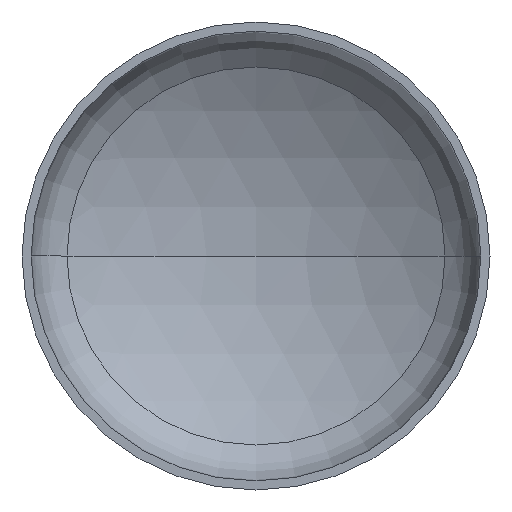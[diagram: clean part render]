
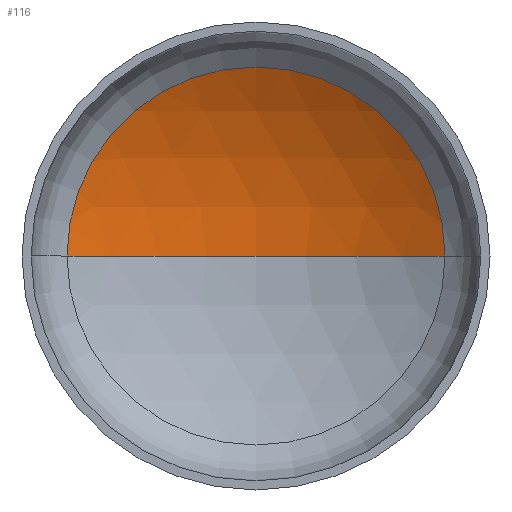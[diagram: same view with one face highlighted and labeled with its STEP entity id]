
A CAD part, front view. The second image highlights one B-rep face of the part: STEP entity #116.
In plain terms, the highlighted spherical face has radius 1760 mm.
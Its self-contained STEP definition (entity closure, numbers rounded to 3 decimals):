
#5 = CARTESIAN_POINT ( 'NONE',  ( 0., 423.475, 0. ) ) ;
#11 = EDGE_LOOP ( 'NONE', ( #101, #91, #36 ) ) ;
#36 = ORIENTED_EDGE ( 'NONE', *, *, #252, .T. ) ;
#51 = VERTEX_POINT ( 'NONE', #270 ) ;
#76 = CARTESIAN_POINT ( 'NONE',  ( 0., -1095.688, 0. ) ) ;
#83 = VERTEX_POINT ( 'NONE', #232 ) ;
#91 = ORIENTED_EDGE ( 'NONE', *, *, #253, .T. ) ;
#100 = FACE_OUTER_BOUND ( 'NONE', #11, .T. ) ;
#101 = ORIENTED_EDGE ( 'NONE', *, *, #256, .F. ) ;
#112 = VERTEX_POINT ( 'NONE', #202 ) ;
#116 = ADVANCED_FACE ( 'NONE', ( #100 ), #275, .F. ) ;
#141 = AXIS2_PLACEMENT_3D ( 'NONE', #245, #243, #263 ) ;
#147 = AXIS2_PLACEMENT_3D ( 'NONE', #76, #302, #167 ) ;
#153 = AXIS2_PLACEMENT_3D ( 'NONE', #5, #370, #329 ) ;
#167 = DIRECTION ( 'NONE',  ( -1., 0., 0. ) ) ;
#200 = CARTESIAN_POINT ( 'NONE',  ( 0., -1095.688, 0. ) ) ;
#202 = CARTESIAN_POINT ( 'NONE',  ( 0., 664.312, 0. ) ) ;
#207 = AXIS2_PLACEMENT_3D ( 'NONE', #200, #318, #317 ) ;
#232 = CARTESIAN_POINT ( 'NONE',  ( 888.676, 423.475, 0. ) ) ;
#243 = DIRECTION ( 'NONE',  ( 0., 0., 1. ) ) ;
#245 = CARTESIAN_POINT ( 'NONE',  ( 0., -1095.688, 0. ) ) ;
#252 = EDGE_CURVE ( 'NONE', #83, #51, #375, .T. ) ;
#253 = EDGE_CURVE ( 'NONE', #112, #83, #314, .T. ) ;
#256 = EDGE_CURVE ( 'NONE', #112, #51, #367, .T. ) ;
#263 = DIRECTION ( 'NONE',  ( 1., 0., 0. ) ) ;
#270 = CARTESIAN_POINT ( 'NONE',  ( -888.676, 423.475, 0. ) ) ;
#275 = SPHERICAL_SURFACE ( 'NONE', #207, 1760. ) ;
#302 = DIRECTION ( 'NONE',  ( 0., 0., -1. ) ) ;
#314 = CIRCLE ( 'NONE', #147, 1760. ) ;
#317 = DIRECTION ( 'NONE',  ( -1., 0., 0. ) ) ;
#318 = DIRECTION ( 'NONE',  ( 0., 0., -1. ) ) ;
#329 = DIRECTION ( 'NONE',  ( 1., 0., 0. ) ) ;
#367 = CIRCLE ( 'NONE', #141, 1760. ) ;
#370 = DIRECTION ( 'NONE',  ( 0., -1., 0. ) ) ;
#375 = CIRCLE ( 'NONE', #153, 888.676 ) ;
